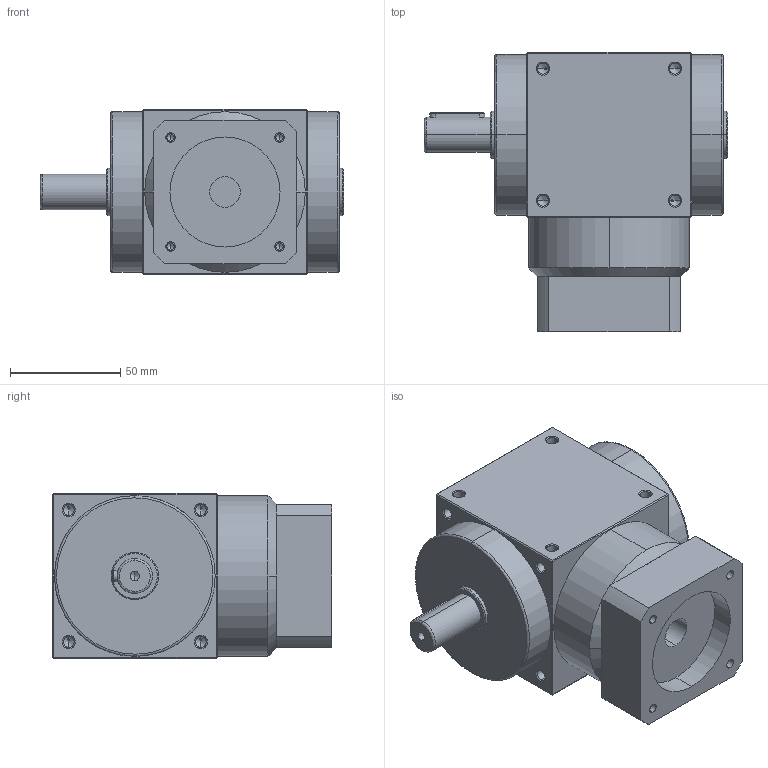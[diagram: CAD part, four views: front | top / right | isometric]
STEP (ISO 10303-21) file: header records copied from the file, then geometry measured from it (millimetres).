
FILE_DESCRIPTION (( 'STEP AP214' ), '1' );
FILE_NAME ('AT075-FL1-001 14-50-70-M5.STEP', '2022-12-29T02:06:16', ( 'Admin' ), ( '' ), 'SwSTEP 2.0', 'SolidWorks 2018', '' );
FILE_SCHEMA (( 'AUTOMOTIVE_DESIGN' ));
Length unit declared in the file: millimetre
Products named in the file (1): AT075-FL1-001 14-50-70-M5
Bounding box: 138 x 127 x 75 mm (x, y, z)
Volume: 736926.9 mm3; surface area: 62179.5 mm2
Topology: 1 solids, 1 shells, 275 faces, 680 edges, 371 vertices
Faces by surface type: cylinder 120, cone 98, plane 51, bspline 6
Entity records: 8802 total; most frequent: CARTESIAN_POINT 1783, DIRECTION 1268, ORIENTED_EDGE 1260, EDGE_CURVE 630, AXIS2_PLACEMENT_3D 488, VERTEX_POINT 371, EDGE_LOOP 313, VECTOR 292
